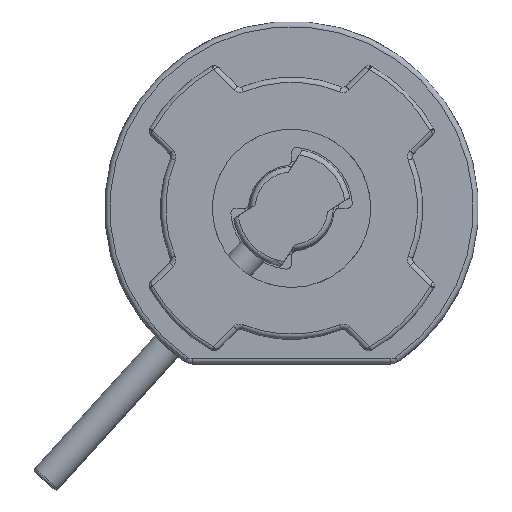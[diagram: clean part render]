
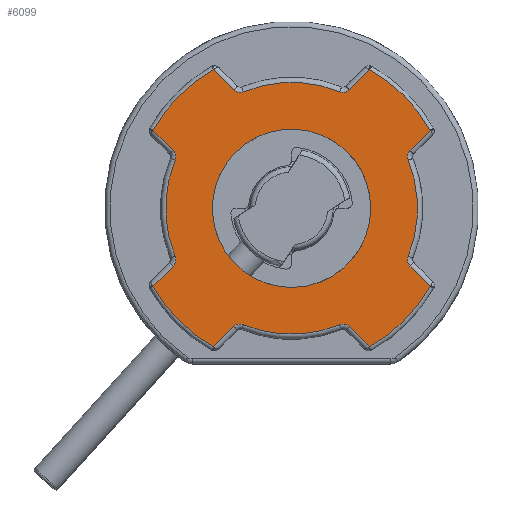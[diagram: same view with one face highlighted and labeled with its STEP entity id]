
A CAD part, front view. The second image highlights one B-rep face of the part: STEP entity #6099.
In plain terms, the highlighted planar face has unit normal (0, -1, 0).
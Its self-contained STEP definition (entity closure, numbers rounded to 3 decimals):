
#39=FACE_BOUND('',#971,.T.);
#75=PLANE('',#6737);
#562=FACE_OUTER_BOUND('',#970,.T.);
#970=EDGE_LOOP('',(#4729,#4730,#4731,#4732,#4733,#4734,#4735,#4736,#4737,
#4738,#4739,#4740,#4741,#4742,#4743,#4744,#4745,#4746,#4747,#4748,#4749,
#4750,#4751,#4752));
#971=EDGE_LOOP('',(#4753));
#1579=LINE('',#11661,#1838);
#1582=LINE('',#11685,#1841);
#1583=LINE('',#11795,#1842);
#1584=LINE('',#11803,#1843);
#1585=LINE('',#11807,#1844);
#1586=LINE('',#11815,#1845);
#1587=LINE('',#11819,#1846);
#1588=LINE('',#11826,#1847);
#1838=VECTOR('',#7972,10.);
#1841=VECTOR('',#8003,10.);
#1842=VECTOR('',#8020,10.);
#1843=VECTOR('',#8027,10.);
#1844=VECTOR('',#8030,10.);
#1845=VECTOR('',#8037,10.);
#1846=VECTOR('',#8040,10.);
#1847=VECTOR('',#8047,10.);
#2182=CIRCLE('',#6721,3.5);
#2185=CIRCLE('',#6725,48.5);
#2188=CIRCLE('',#6729,3.5);
#2191=CIRCLE('',#6734,61.287);
#2194=CIRCLE('',#6738,61.287);
#2195=CIRCLE('',#6739,3.5);
#2196=CIRCLE('',#6740,48.5);
#2197=CIRCLE('',#6741,3.5);
#2198=CIRCLE('',#6742,61.287);
#2199=CIRCLE('',#6743,3.5);
#2200=CIRCLE('',#6744,48.5);
#2201=CIRCLE('',#6745,3.5);
#2202=CIRCLE('',#6746,61.287);
#2203=CIRCLE('',#6747,3.5);
#2204=CIRCLE('',#6748,48.5);
#2205=CIRCLE('',#6749,3.5);
#2206=CIRCLE('',#6750,30.5);
#2663=VERTEX_POINT('',#11319);
#2669=VERTEX_POINT('',#11457);
#2676=VERTEX_POINT('',#11660);
#2678=VERTEX_POINT('',#11666);
#2680=VERTEX_POINT('',#11672);
#2682=VERTEX_POINT('',#11678);
#2689=VERTEX_POINT('',#11786);
#2691=VERTEX_POINT('',#11792);
#2692=VERTEX_POINT('',#11794);
#2693=VERTEX_POINT('',#11796);
#2694=VERTEX_POINT('',#11798);
#2695=VERTEX_POINT('',#11800);
#2696=VERTEX_POINT('',#11802);
#2697=VERTEX_POINT('',#11804);
#2698=VERTEX_POINT('',#11806);
#2699=VERTEX_POINT('',#11808);
#2700=VERTEX_POINT('',#11810);
#2701=VERTEX_POINT('',#11812);
#2702=VERTEX_POINT('',#11814);
#2703=VERTEX_POINT('',#11816);
#2704=VERTEX_POINT('',#11818);
#2705=VERTEX_POINT('',#11820);
#2706=VERTEX_POINT('',#11822);
#2707=VERTEX_POINT('',#11824);
#2708=VERTEX_POINT('',#11827);
#3413=EDGE_CURVE('',#2669,#2676,#1579,.T.);
#3418=EDGE_CURVE('',#2676,#2678,#2182,.T.);
#3421=EDGE_CURVE('',#2678,#2680,#2185,.T.);
#3424=EDGE_CURVE('',#2680,#2682,#2188,.T.);
#3426=EDGE_CURVE('',#2682,#2663,#1582,.T.);
#3435=EDGE_CURVE('',#2663,#2689,#2191,.T.);
#3438=EDGE_CURVE('',#2691,#2669,#2194,.T.);
#3439=EDGE_CURVE('',#2692,#2691,#1583,.T.);
#3440=EDGE_CURVE('',#2693,#2692,#2195,.T.);
#3441=EDGE_CURVE('',#2694,#2693,#2196,.T.);
#3442=EDGE_CURVE('',#2695,#2694,#2197,.T.);
#3443=EDGE_CURVE('',#2696,#2695,#1584,.T.);
#3444=EDGE_CURVE('',#2697,#2696,#2198,.T.);
#3445=EDGE_CURVE('',#2698,#2697,#1585,.T.);
#3446=EDGE_CURVE('',#2699,#2698,#2199,.T.);
#3447=EDGE_CURVE('',#2700,#2699,#2200,.T.);
#3448=EDGE_CURVE('',#2701,#2700,#2201,.T.);
#3449=EDGE_CURVE('',#2702,#2701,#1586,.T.);
#3450=EDGE_CURVE('',#2703,#2702,#2202,.T.);
#3451=EDGE_CURVE('',#2704,#2703,#1587,.T.);
#3452=EDGE_CURVE('',#2705,#2704,#2203,.T.);
#3453=EDGE_CURVE('',#2706,#2705,#2204,.T.);
#3454=EDGE_CURVE('',#2707,#2706,#2205,.T.);
#3455=EDGE_CURVE('',#2689,#2707,#1588,.T.);
#3456=EDGE_CURVE('',#2708,#2708,#2206,.T.);
#4729=ORIENTED_EDGE('',*,*,#3426,.F.);
#4730=ORIENTED_EDGE('',*,*,#3424,.F.);
#4731=ORIENTED_EDGE('',*,*,#3421,.F.);
#4732=ORIENTED_EDGE('',*,*,#3418,.F.);
#4733=ORIENTED_EDGE('',*,*,#3413,.F.);
#4734=ORIENTED_EDGE('',*,*,#3438,.F.);
#4735=ORIENTED_EDGE('',*,*,#3439,.F.);
#4736=ORIENTED_EDGE('',*,*,#3440,.F.);
#4737=ORIENTED_EDGE('',*,*,#3441,.F.);
#4738=ORIENTED_EDGE('',*,*,#3442,.F.);
#4739=ORIENTED_EDGE('',*,*,#3443,.F.);
#4740=ORIENTED_EDGE('',*,*,#3444,.F.);
#4741=ORIENTED_EDGE('',*,*,#3445,.F.);
#4742=ORIENTED_EDGE('',*,*,#3446,.F.);
#4743=ORIENTED_EDGE('',*,*,#3447,.F.);
#4744=ORIENTED_EDGE('',*,*,#3448,.F.);
#4745=ORIENTED_EDGE('',*,*,#3449,.F.);
#4746=ORIENTED_EDGE('',*,*,#3450,.F.);
#4747=ORIENTED_EDGE('',*,*,#3451,.F.);
#4748=ORIENTED_EDGE('',*,*,#3452,.F.);
#4749=ORIENTED_EDGE('',*,*,#3453,.F.);
#4750=ORIENTED_EDGE('',*,*,#3454,.F.);
#4751=ORIENTED_EDGE('',*,*,#3455,.F.);
#4752=ORIENTED_EDGE('',*,*,#3435,.F.);
#4753=ORIENTED_EDGE('',*,*,#3456,.T.);
#6099=ADVANCED_FACE('',(#562,#39),#75,.F.);
#6721=AXIS2_PLACEMENT_3D('',#11670,#7982,#7983);
#6725=AXIS2_PLACEMENT_3D('',#11676,#7990,#7991);
#6729=AXIS2_PLACEMENT_3D('',#11682,#7998,#7999);
#6734=AXIS2_PLACEMENT_3D('',#11787,#8010,#8011);
#6737=AXIS2_PLACEMENT_3D('',#11791,#8016,#8017);
#6738=AXIS2_PLACEMENT_3D('',#11793,#8018,#8019);
#6739=AXIS2_PLACEMENT_3D('',#11797,#8021,#8022);
#6740=AXIS2_PLACEMENT_3D('',#11799,#8023,#8024);
#6741=AXIS2_PLACEMENT_3D('',#11801,#8025,#8026);
#6742=AXIS2_PLACEMENT_3D('',#11805,#8028,#8029);
#6743=AXIS2_PLACEMENT_3D('',#11809,#8031,#8032);
#6744=AXIS2_PLACEMENT_3D('',#11811,#8033,#8034);
#6745=AXIS2_PLACEMENT_3D('',#11813,#8035,#8036);
#6746=AXIS2_PLACEMENT_3D('',#11817,#8038,#8039);
#6747=AXIS2_PLACEMENT_3D('',#11821,#8041,#8042);
#6748=AXIS2_PLACEMENT_3D('',#11823,#8043,#8044);
#6749=AXIS2_PLACEMENT_3D('',#11825,#8045,#8046);
#6750=AXIS2_PLACEMENT_3D('',#11828,#8048,#8049);
#7972=DIRECTION('',(-0.707,0.,-0.707));
#7982=DIRECTION('center_axis',(0.,-1.,0.));
#7983=DIRECTION('ref_axis',(-0.981,0.,0.196));
#7990=DIRECTION('center_axis',(0.,1.,0.));
#7991=DIRECTION('ref_axis',(1.,0.,0.));
#7998=DIRECTION('center_axis',(0.,-1.,0.));
#7999=DIRECTION('ref_axis',(-0.981,0.,-0.196));
#8003=DIRECTION('',(0.707,0.,-0.707));
#8010=DIRECTION('center_axis',(0.,1.,0.));
#8011=DIRECTION('ref_axis',(0.707,0.,-0.707));
#8016=DIRECTION('center_axis',(0.,1.,0.));
#8017=DIRECTION('ref_axis',(0.,0.,1.));
#8018=DIRECTION('center_axis',(0.,1.,0.));
#8019=DIRECTION('ref_axis',(0.707,0.,0.707));
#8020=DIRECTION('',(0.707,0.,0.707));
#8021=DIRECTION('center_axis',(0.,-1.,0.));
#8022=DIRECTION('ref_axis',(0.196,0.,-0.981));
#8023=DIRECTION('center_axis',(0.,1.,0.));
#8024=DIRECTION('ref_axis',(0.,0.,1.));
#8025=DIRECTION('center_axis',(0.,-1.,0.));
#8026=DIRECTION('ref_axis',(-0.196,0.,-0.981));
#8027=DIRECTION('',(0.707,0.,-0.707));
#8028=DIRECTION('center_axis',(0.,1.,0.));
#8029=DIRECTION('ref_axis',(-0.707,0.,0.707));
#8030=DIRECTION('',(-0.707,0.,0.707));
#8031=DIRECTION('center_axis',(0.,-1.,0.));
#8032=DIRECTION('ref_axis',(0.981,0.,0.196));
#8033=DIRECTION('center_axis',(0.,1.,0.));
#8034=DIRECTION('ref_axis',(-1.,0.,0.));
#8035=DIRECTION('center_axis',(0.,-1.,0.));
#8036=DIRECTION('ref_axis',(0.981,0.,-0.196));
#8037=DIRECTION('',(0.707,0.,0.707));
#8038=DIRECTION('center_axis',(0.,1.,0.));
#8039=DIRECTION('ref_axis',(-0.707,0.,-0.707));
#8040=DIRECTION('',(-0.707,0.,-0.707));
#8041=DIRECTION('center_axis',(0.,-1.,0.));
#8042=DIRECTION('ref_axis',(-0.196,0.,0.981));
#8043=DIRECTION('center_axis',(0.,1.,0.));
#8044=DIRECTION('ref_axis',(0.,0.,-1.));
#8045=DIRECTION('center_axis',(0.,-1.,0.));
#8046=DIRECTION('ref_axis',(0.196,0.,0.981));
#8047=DIRECTION('',(-0.707,0.,0.707));
#8048=DIRECTION('center_axis',(0.,1.,0.));
#8049=DIRECTION('ref_axis',(-1.,0.,0.));
#11319=CARTESIAN_POINT('',(53.404,-54.5,-30.069));
#11457=CARTESIAN_POINT('',(53.404,-54.5,30.069));
#11660=CARTESIAN_POINT('',(45.608,-54.5,22.274));
#11661=CARTESIAN_POINT('',(28.281,-54.5,4.946));
#11666=CARTESIAN_POINT('',(44.847,-54.5,18.466));
#11670=CARTESIAN_POINT('Origin',(48.083,-54.5,19.799));
#11672=CARTESIAN_POINT('',(44.847,-54.5,-18.466));
#11676=CARTESIAN_POINT('Origin',(0.,-54.5,0.));
#11678=CARTESIAN_POINT('',(45.608,-54.5,-22.274));
#11682=CARTESIAN_POINT('Origin',(48.083,-54.5,-19.799));
#11685=CARTESIAN_POINT('',(34.066,-54.5,-10.732));
#11786=CARTESIAN_POINT('',(30.069,-54.5,-53.404));
#11787=CARTESIAN_POINT('Origin',(0.,-54.5,0.));
#11791=CARTESIAN_POINT('Origin',(0.,-54.5,0.));
#11792=CARTESIAN_POINT('',(30.069,-54.5,53.404));
#11793=CARTESIAN_POINT('Origin',(0.,-54.5,0.));
#11794=CARTESIAN_POINT('',(22.274,-54.5,45.608));
#11795=CARTESIAN_POINT('',(10.732,-54.5,34.066));
#11796=CARTESIAN_POINT('',(18.466,-54.5,44.847));
#11797=CARTESIAN_POINT('Origin',(19.799,-54.5,48.083));
#11798=CARTESIAN_POINT('',(-18.466,-54.5,44.847));
#11799=CARTESIAN_POINT('Origin',(0.,-54.5,0.));
#11800=CARTESIAN_POINT('',(-22.274,-54.5,45.608));
#11801=CARTESIAN_POINT('Origin',(-19.799,-54.5,48.083));
#11802=CARTESIAN_POINT('',(-30.069,-54.5,53.404));
#11803=CARTESIAN_POINT('',(-4.946,-54.5,28.281));
#11804=CARTESIAN_POINT('',(-53.404,-54.5,30.069));
#11805=CARTESIAN_POINT('Origin',(0.,-54.5,0.));
#11806=CARTESIAN_POINT('',(-45.608,-54.5,22.274));
#11807=CARTESIAN_POINT('',(-34.066,-54.5,10.732));
#11808=CARTESIAN_POINT('',(-44.847,-54.5,18.466));
#11809=CARTESIAN_POINT('Origin',(-48.083,-54.5,19.799));
#11810=CARTESIAN_POINT('',(-44.847,-54.5,-18.466));
#11811=CARTESIAN_POINT('Origin',(0.,-54.5,0.));
#11812=CARTESIAN_POINT('',(-45.608,-54.5,-22.274));
#11813=CARTESIAN_POINT('Origin',(-48.083,-54.5,-19.799));
#11814=CARTESIAN_POINT('',(-53.404,-54.5,-30.069));
#11815=CARTESIAN_POINT('',(-28.281,-54.5,-4.946));
#11816=CARTESIAN_POINT('',(-30.069,-54.5,-53.404));
#11817=CARTESIAN_POINT('Origin',(0.,-54.5,0.));
#11818=CARTESIAN_POINT('',(-22.274,-54.5,-45.608));
#11819=CARTESIAN_POINT('',(-10.732,-54.5,-34.066));
#11820=CARTESIAN_POINT('',(-18.466,-54.5,-44.847));
#11821=CARTESIAN_POINT('Origin',(-19.799,-54.5,-48.083));
#11822=CARTESIAN_POINT('',(18.466,-54.5,-44.847));
#11823=CARTESIAN_POINT('Origin',(0.,-54.5,0.));
#11824=CARTESIAN_POINT('',(22.274,-54.5,-45.608));
#11825=CARTESIAN_POINT('Origin',(19.799,-54.5,-48.083));
#11826=CARTESIAN_POINT('',(4.946,-54.5,-28.281));
#11827=CARTESIAN_POINT('',(30.5,-54.5,0.));
#11828=CARTESIAN_POINT('Origin',(0.,-54.5,0.));
